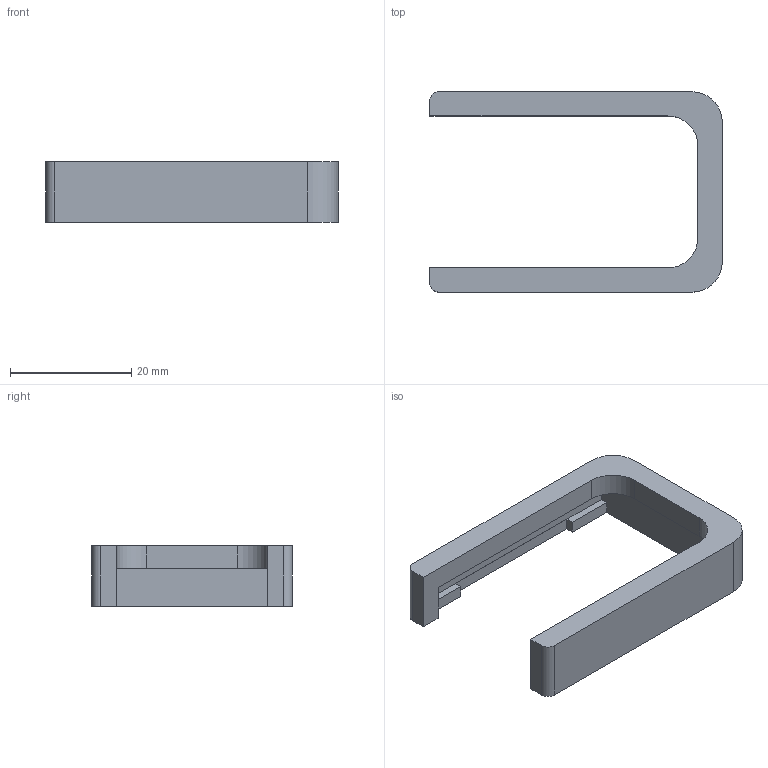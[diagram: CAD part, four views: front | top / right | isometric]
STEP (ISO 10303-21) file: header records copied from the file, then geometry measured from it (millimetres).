
FILE_DESCRIPTION(/* description */ (''),/* implementation_level */ '2;1');
FILE_NAME(/* name */ 'C:/Users/HIRSCH/Desktop/MagClipAO.step',/* time_stamp */ '2022-07-18T22:05:29+02:00',/* author */ (''),/* organization */ (''),/* preprocessor_version */ 'ST-DEVELOPER v18.1',/* originating_system */ 'Autodesk Translation Framework v10.13.0.1454',/* authorisation */ '');
FILE_SCHEMA (('AUTOMOTIVE_DESIGN { 1 0 10303 214 3 1 1 }'));
Length unit declared in the file: millimetre
Products named in the file (1): MagBaseAutoOrdnance
Bounding box: 48.3 x 33.1 x 10 mm (x, y, z)
Volume: 3281.1 mm3; surface area: 3567.8 mm2
Topology: 1 solids, 1 shells, 38 faces, 104 edges, 68 vertices
Faces by surface type: plane 32, cylinder 6
Entity records: 1221 total; most frequent: CARTESIAN_POINT 211, ORIENTED_EDGE 208, DIRECTION 194, EDGE_CURVE 104, LINE 92, VECTOR 92, VERTEX_POINT 68, AXIS2_PLACEMENT_3D 51
